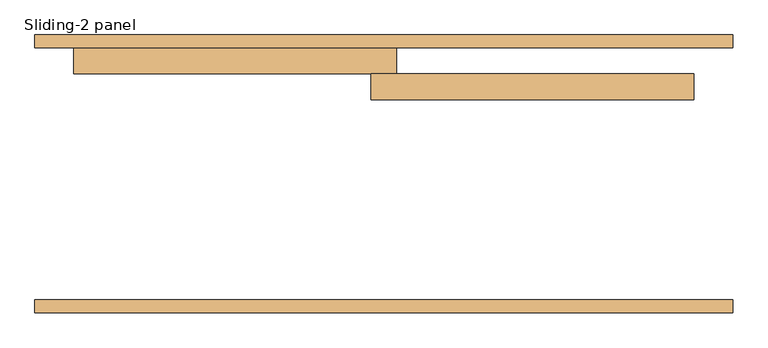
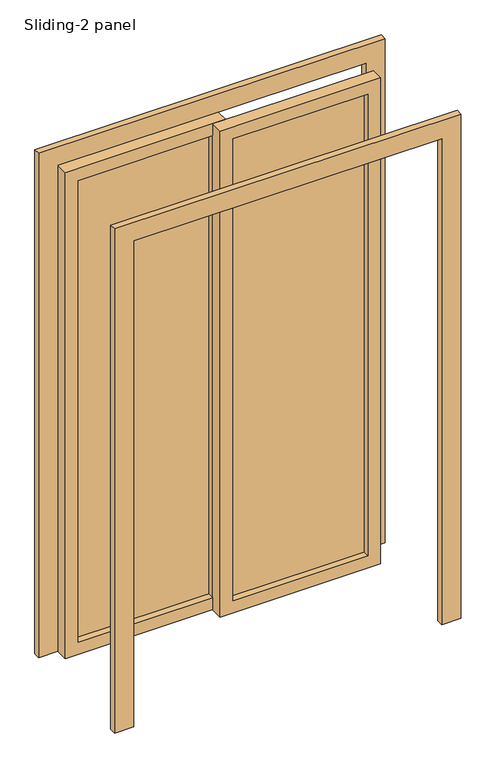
"""IFC4 building model written with IfcOpenShell, lengths in millimetres: door geometry, Sliding-2 panel : Cohouse - Sliding-2 ."""

from ifc_helpers import new_model, si_unit, frame, origin, place, context, project, spatial, polyline, outline, extrude, source, transform, mapped, element, save


def sliding_2_panel_fa528627(model_context):
    return source(origin(), model_context, "Body", "SweptSolid", [
        extrude(outline(polyline([(0.0, -685.8), (0.0, -609.6), (2032.0, -609.6), (2032.0, 609.6), (0.0, 609.6), (0.0, 685.8), (2108.2, 685.8), (2108.2, -685.8), (0.0, -685.8)])), frame((0.0, -146.05, 0.0), z_axis=(0.0, 1.0, 0.0), x_axis=(0.0, 0.0, 1.0)), (0.0, 0.0, 1.0), 25.4),
        extrude(outline(polyline([(0.0, 685.8), (2108.2, 685.8), (2108.2, -685.8), (0.0, -685.8), (0.0, -609.6), (2032.0, -609.6), (2032.0, 609.6), (0.0, 609.6), (0.0, 685.8)])), frame((0.0, 374.65, 0.0), z_axis=(0.0, 1.0, 0.0), x_axis=(0.0, 0.0, 1.0)), (0.0, 0.0, 1.0), 25.4),
        extrude(outline(polyline([(558.8, 299.24375), (25.4, 299.24375), (25.4, 305.59375), (558.8, 305.59375), (558.8, 299.24375)])), frame((0.0, 0.0, 50.8), z_axis=(0.0, 0.0, 1.0), x_axis=(1.0, 0.0, 0.0)), (0.0, 0.0, 1.0), 1930.4),
        extrude(outline(polyline([(-25.4, 350.04375), (-558.8, 350.04375), (-558.8, 356.39375), (-25.4, 356.39375), (-25.4, 350.04375)])), frame((0.0, 0.0, 50.8), z_axis=(0.0, 0.0, 1.0), x_axis=(1.0, 0.0, 0.0)), (0.0, 0.0, 1.0), 1930.4),
        extrude(outline(polyline([(2032.0, -25.4), (0.0, -25.4), (0.0, 609.6), (2032.0, 609.6), (2032.0, -25.4)]), holes=[polyline([(1981.2, 25.4), (1981.2, 558.8), (50.8, 558.8), (50.8, 25.4), (1981.2, 25.4)])]), frame((0.0, 273.05, 0.0), z_axis=(0.0, 1.0, 0.0), x_axis=(0.0, 0.0, 1.0)), (0.0, 0.0, 1.0), 50.8),
        extrude(outline(polyline([(2032.0, 25.4), (2032.0, -609.6), (0.0, -609.6), (0.0, 25.4), (2032.0, 25.4)]), holes=[polyline([(1981.2, -25.4), (50.8, -25.4), (50.8, -558.8), (1981.2, -558.8), (1981.2, -25.4)])]), frame((0.0, 323.85, 0.0), z_axis=(0.0, 1.0, 0.0), x_axis=(0.0, 0.0, 1.0)), (0.0, 0.0, 1.0), 50.8),
    ])


if __name__ == "__main__":
    model = new_model("IFC4")
    model_context = context("Model", 3, world=origin())
    ifc_project = project(units=[si_unit("LENGTHUNIT", "METRE", prefix="MILLI")], contexts=[model_context])
    site = spatial("IfcSite", under=ifc_project)
    building = spatial("IfcBuilding", under=site)
    placement = place(None, origin())
    sliding_2_panel_shape = sliding_2_panel_fa528627(model_context)
    element("IfcDoor", 1, ObjectType="Sliding-2 panel : Cohouse - Sliding-2 ", at=placement, inside=building, context=model_context, shape_type="MappedRepresentation", body=[
        mapped(sliding_2_panel_shape, transform((0.0, 0.0, 0.0), x_axis=(1.0, 0.0, 0.0), y_axis=(0.0, 1.0, 0.0), z_axis=(0.0, 0.0, 1.0))),
    ])
    save(model, "model.ifc")
